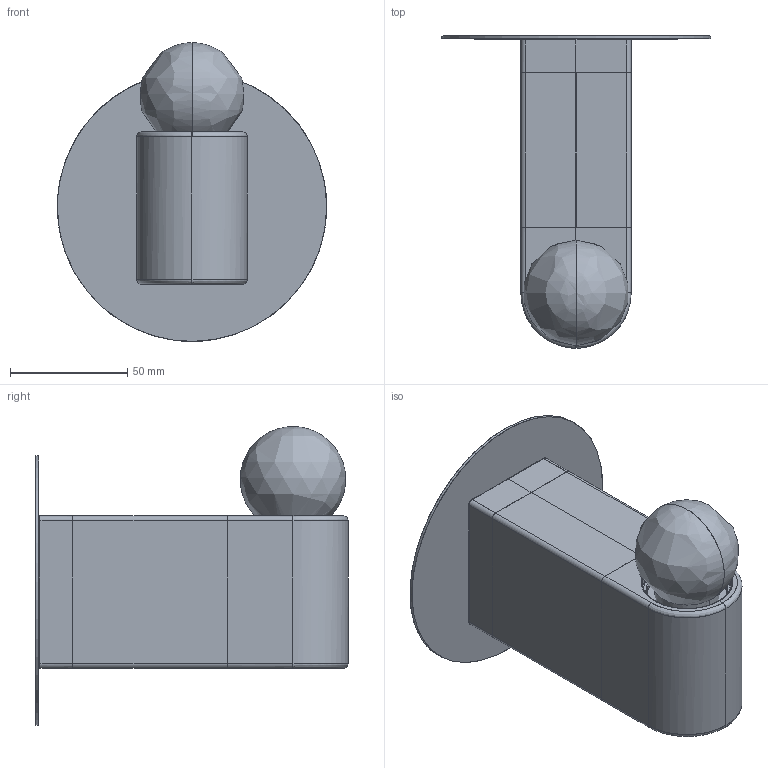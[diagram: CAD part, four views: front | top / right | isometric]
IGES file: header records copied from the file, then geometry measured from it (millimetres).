
Start section: Use this template file for building objects the size of a truck or smaller, and for objects which must be built to manufacturing tolerances. Units: Millimeters Absolute tolerance: .001 mm
Global section: file name: /Volumes/Company/WIP/Marlen/WFH/Website/SALES 3D/WPS/MA_WPS_D2_3D_2018/MA_White Porcelain Series D2_120V_2017.igs; preprocessor: Trout Lake IGES 012 Dec  4 2019; date: 201130.114626; units: millimetre
Bounding box: 115 x 133.2 x 127.54 mm (x, y, z)
Surface area: 68447 mm2 (no closed solid volume)
Topology: 0 solids, 0 shells, 129 faces, 913 edges, 909 vertices
Faces by surface type: bspline 129
